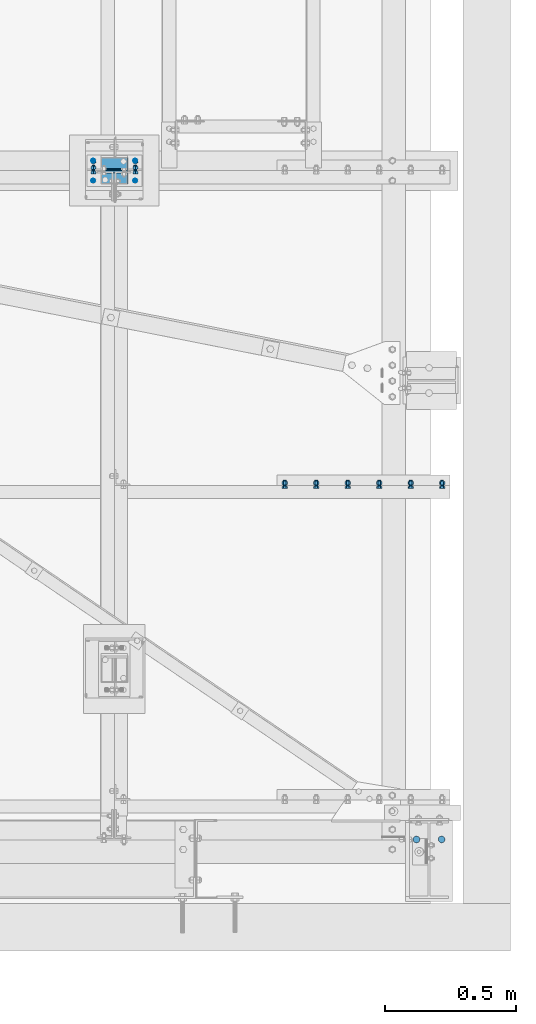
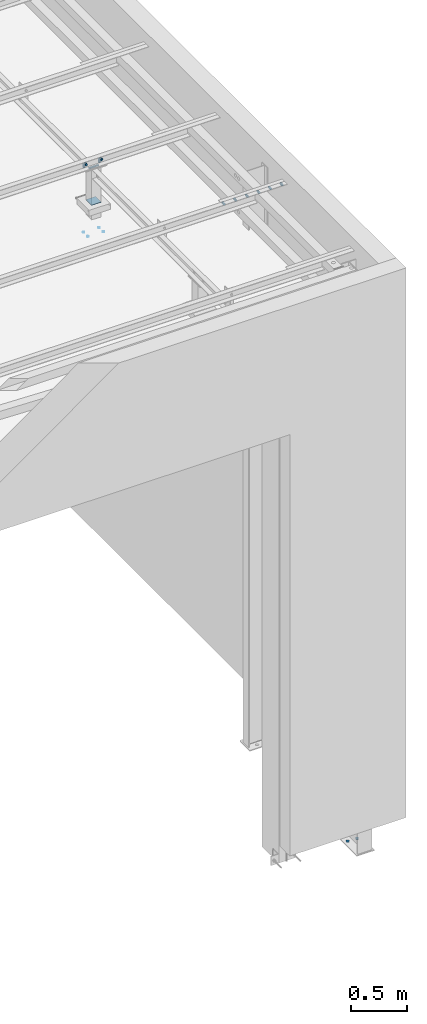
# One storey, part 341 of 3134: 7 mechanical fasteners, 5 elements without a shape of their own.
"""IFC2X3 building model written with IfcOpenShell, lengths in millimetres."""

from ifc_helpers import new_model, si_unit, frame, origin_with_axes, place, context, subcontext, project, spatial, faceted_brep, source, transform, mapped, material, type_object, element, aggregate, save


model = new_model("IFC2X3")

# Units and contexts
model_context = context("Model", 3, precision=1e-05, world=origin_with_axes())
body_context = subcontext(model_context, "Body", "Model", "MODEL_VIEW")
ifc_project = project(units=[si_unit("LENGTHUNIT", "METRE", prefix="MILLI"), si_unit("AREAUNIT", "SQUARE_METRE"), si_unit("VOLUMEUNIT", "CUBIC_METRE"), si_unit("MASSUNIT", "GRAM", prefix="KILO"), si_unit("TIMEUNIT", "SECOND"), si_unit("PLANEANGLEUNIT", "RADIAN"), si_unit("SOLIDANGLEUNIT", "STERADIAN"), si_unit("THERMODYNAMICTEMPERATUREUNIT", "DEGREE_CELSIUS"), si_unit("LUMINOUSINTENSITYUNIT", "LUMEN")], contexts=[model_context])

# Site, building, storey
site_placement = place(None, origin_with_axes())
site = spatial("IfcSite", under=ifc_project, at=site_placement, CompositionType="ELEMENT")
building_placement = place(site_placement, origin_with_axes())
building = spatial("IfcBuilding", under=site, at=building_placement, Name="Undefined", CompositionType="ELEMENT")
storey_placement = place(building_placement, origin_with_axes())
storey = spatial("IfcBuildingStorey", under=building, at=storey_placement, Name="Undefined", CompositionType="ELEMENT", Elevation=0.0)

# Assembly, mechanical fastener
assembly_1_placement = place(storey_placement, origin_with_axes())
assembly_1 = element("IfcElementAssembly", 1, at=assembly_1_placement, inside=storey, AssemblyPlace="NOTDEFINED", PredefinedType="RIGID_FRAME")
ifc_material_1 = material(Name="8.8")
mechanical_fastener_type = type_object("IfcMechanicalFastenerType", Name="Bolt assembly")
shared_shape_1 = source(origin_with_axes(), body_context, "Body", "Brep", [
    faceted_brep([(10.9696551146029, -14.0, 0.0), (5.48482755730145, -14.0, 9.5), (-5.48482755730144, -14.0, 9.5), (-10.9696551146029, -14.0, 1.34339530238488e-15), (-5.48482755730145, -14.0, -9.5), (5.48482755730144, -14.0, -9.50000000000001), (5.48482755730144, -6.0, -9.50000000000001), (-5.48482755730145, -6.0, -9.5), (-10.9696551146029, -6.0, 1.34339530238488e-15), (-5.48482755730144, -6.0, 9.5), (5.48482755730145, -6.0, 9.5), (10.9696551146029, -6.0, 0.0), (6.0, -6.0, 0.0), (5.19615242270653, -6.0, 3.00000000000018), (2.99999999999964, -6.0, 5.19615242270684), (-6.21801588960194e-13, -6.0, 6.0), (-3.00000000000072, -6.0, 5.19615242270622), (-5.19615242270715, -6.0, 2.9999999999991), (-6.0, -6.0, -1.24360317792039e-12), (-5.19615242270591, -6.0, -3.00000000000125), (-2.99999999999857, -6.0, -5.19615242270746), (1.85874342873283e-12, -6.0, -6.0), (3.00000000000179, -6.0, -5.1961524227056), (5.19615242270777, -6.0, -2.99999999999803), (5.19615242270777, 24.0, -2.99999999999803), (3.00000000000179, 24.0, -5.1961524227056), (1.85874342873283e-12, 24.0, -6.0), (-2.99999999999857, 24.0, -5.19615242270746), (-5.19615242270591, 24.0, -3.00000000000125), (-6.0, 24.0, -1.24360317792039e-12), (-5.19615242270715, 24.0, 2.9999999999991), (-3.00000000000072, 24.0, 5.19615242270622), (-6.21801588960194e-13, 24.0, 6.0), (2.99999999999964, 24.0, 5.19615242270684), (5.19615242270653, 24.0, 3.00000000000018), (6.0, 24.0, 0.0), (10.9696551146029, 6.00000000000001, 0.0), (5.48482755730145, 6.00000000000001, 9.5), (-5.48482755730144, 6.00000000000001, 9.5), (-10.9696551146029, 6.00000000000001, 1.34339530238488e-15), (-5.48482755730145, 6.00000000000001, -9.5), (5.48482755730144, 6.00000000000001, -9.50000000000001), (5.48482755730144, 16.0, -9.50000000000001), (-5.48482755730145, 16.0, -9.5), (-10.9696551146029, 16.0, 1.34339530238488e-15), (-5.48482755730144, 16.0, 9.5), (5.48482755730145, 16.0, 9.5), (10.9696551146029, 16.0, 0.0)], [[[0, 1, 2, 3, 4, 5]], [[6, 7, 8, 9, 10, 11]], [[0, 11, 10, 1]], [[1, 10, 9, 2]], [[2, 9, 8, 3]], [[3, 8, 7, 4]], [[4, 7, 6, 5]], [[5, 6, 11, 0]], [[12, 13, 14, 15, 16, 17, 18, 19, 20, 21, 22, 23]], [[24, 25, 26, 27, 28, 29, 30, 31, 32, 33, 34, 35]], [[12, 35, 34, 13]], [[13, 34, 33, 14]], [[14, 33, 32, 15]], [[15, 32, 31, 16]], [[16, 31, 30, 17]], [[17, 30, 29, 18]], [[18, 29, 28, 19]], [[19, 28, 27, 20]], [[20, 27, 26, 21]], [[21, 26, 25, 22]], [[22, 25, 24, 23]], [[23, 24, 35, 12]], [[36, 37, 38, 39, 40, 41]], [[42, 43, 44, 45, 46, 47]], [[36, 47, 46, 37]], [[37, 46, 45, 38]], [[38, 45, 44, 39]], [[39, 44, 43, 40]], [[40, 43, 42, 41]], [[41, 42, 47, 36]]]),
    faceted_brep([(7.0, -0.1, 0.0), (6.06217782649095, -0.1, 3.50000000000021), (3.49999999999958, -0.1, 6.06217782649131), (-7.25435187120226e-13, -0.1, 7.0), (-3.50000000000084, -0.1, 6.06217782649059), (-6.06217782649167, -0.1, 3.49999999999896), (-7.0, -0.1, -1.45087037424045e-12), (-6.06217782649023, -0.1, -3.50000000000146), (-3.49999999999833, -0.1, -6.06217782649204), (2.1685340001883e-12, -0.1, -7.0), (3.50000000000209, -0.1, -6.06217782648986), (6.0621778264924, -0.1, -3.4999999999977), (6.0621778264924, 6.00000000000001, -3.4999999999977), (3.50000000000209, 6.00000000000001, -6.06217782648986), (2.1685340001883e-12, 6.00000000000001, -7.0), (-3.49999999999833, 6.00000000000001, -6.06217782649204), (-6.06217782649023, 6.00000000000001, -3.50000000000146), (-7.0, 6.00000000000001, -1.45087037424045e-12), (-6.06217782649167, 6.00000000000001, 3.49999999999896), (-3.50000000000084, 6.00000000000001, 6.06217782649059), (-7.25435187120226e-13, 6.00000000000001, 7.0), (3.49999999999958, 6.00000000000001, 6.06217782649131), (6.06217782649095, 6.00000000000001, 3.50000000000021), (7.0, 6.00000000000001, 0.0), (7.0, -5.9, 0.0), (6.06217782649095, -5.9, 3.50000000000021), (3.49999999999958, -5.9, 6.06217782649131), (-7.25435187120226e-13, -5.9, 7.0), (-3.50000000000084, -5.9, 6.06217782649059), (-6.06217782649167, -5.9, 3.49999999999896), (-7.0, -5.9, -1.45087037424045e-12), (-6.06217782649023, -5.9, -3.50000000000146), (-3.49999999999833, -5.9, -6.06217782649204), (2.1685340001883e-12, -5.9, -7.0), (3.50000000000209, -5.9, -6.06217782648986), (6.0621778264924, -5.9, -3.4999999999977), (6.0621778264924, 0.0999999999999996, -3.4999999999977), (3.50000000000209, 0.0999999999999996, -6.06217782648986), (2.1685340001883e-12, 0.0999999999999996, -7.0), (-3.49999999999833, 0.0999999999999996, -6.06217782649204), (-6.06217782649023, 0.0999999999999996, -3.50000000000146), (-7.0, 0.0999999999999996, -1.45087037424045e-12), (-6.06217782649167, 0.0999999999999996, 3.49999999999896), (-3.50000000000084, 0.0999999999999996, 6.06217782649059), (-7.25435187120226e-13, 0.0999999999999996, 7.0), (3.49999999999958, 0.0999999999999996, 6.06217782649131), (6.06217782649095, 0.0999999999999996, 3.50000000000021), (7.0, 0.0999999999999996, 0.0)], [[[0, 1, 2, 3, 4, 5, 6, 7, 8, 9, 10, 11]], [[12, 13, 14, 15, 16, 17, 18, 19, 20, 21, 22, 23]], [[0, 23, 22, 1]], [[1, 22, 21, 2]], [[2, 21, 20, 3]], [[3, 20, 19, 4]], [[4, 19, 18, 5]], [[5, 18, 17, 6]], [[6, 17, 16, 7]], [[7, 16, 15, 8]], [[8, 15, 14, 9]], [[9, 14, 13, 10]], [[10, 13, 12, 11]], [[11, 12, 23, 0]], [[24, 25, 26, 27, 28, 29, 30, 31, 32, 33, 34, 35]], [[36, 37, 38, 39, 40, 41, 42, 43, 44, 45, 46, 47]], [[24, 47, 46, 25]], [[25, 46, 45, 26]], [[26, 45, 44, 27]], [[27, 44, 43, 28]], [[28, 43, 42, 29]], [[29, 42, 41, 30]], [[30, 41, 40, 31]], [[31, 40, 39, 32]], [[32, 39, 38, 33]], [[33, 38, 37, 34]], [[34, 37, 36, 35]], [[35, 36, 47, 24]]]),
])
mechanical_fastener_1_placement = place(assembly_1_placement, frame((78025.0, 2585.0, 5850.0), z_axis=(1.0, 0.0, 0.0), x_axis=(0.0, -1.0, 0.0)))
mechanical_fastener_1 = element("IfcMechanicalFastener", 2, at=mechanical_fastener_1_placement, type_object=mechanical_fastener_type, material=ifc_material_1, Name="Bolt assembly", NominalDiameter=12.0, NominalLength=30.0, context=body_context, shape_type="MappedRepresentation", body=[
    mapped(shared_shape_1, transform((0.0, -5.32963895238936e-10, -79.9999999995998))),
    mapped(shared_shape_1, transform((0.0, 5.3114490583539e-10, 79.9999999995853))),
])

assembly_2_placement = place(storey_placement, origin_with_axes())
assembly_2 = element("IfcElementAssembly", 3, at=assembly_2_placement, inside=storey, AssemblyPlace="NOTDEFINED", PredefinedType="RIGID_FRAME")
shared_shape_2 = source(origin_with_axes(), body_context, "Body", "Brep", [
    faceted_brep([(7.0, 13.0000253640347, 0.0), (6.06217782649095, 13.0000253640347, 3.50000000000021), (3.49999999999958, 13.0000253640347, 6.06217782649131), (-7.25435187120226e-13, 13.0000253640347, 7.0), (-3.50000000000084, 13.0000253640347, 6.06217782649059), (-6.06217782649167, 13.0000253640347, 3.49999999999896), (-7.0, 13.0000253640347, -1.45087037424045e-12), (-6.06217782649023, 13.0000253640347, -3.50000000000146), (-3.49999999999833, 13.0000253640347, -6.06217782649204), (2.1685340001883e-12, 13.0000253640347, -7.0), (3.50000000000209, 13.0000253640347, -6.06217782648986), (6.0621778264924, 13.0000253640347, -3.4999999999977), (6.0621778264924, 15.0999999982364, -3.4999999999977), (3.50000000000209, 15.0999999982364, -6.06217782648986), (2.1685340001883e-12, 15.0999999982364, -7.0), (-3.49999999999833, 15.0999999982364, -6.06217782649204), (-6.06217782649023, 15.0999999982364, -3.50000000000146), (-7.0, 15.0999999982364, -1.45087037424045e-12), (-6.06217782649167, 15.0999999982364, 3.49999999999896), (-3.50000000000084, 15.0999999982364, 6.06217782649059), (-7.25435187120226e-13, 15.0999999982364, 7.0), (3.49999999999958, 15.0999999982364, 6.06217782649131), (6.06217782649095, 15.0999999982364, 3.50000000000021), (7.0, 15.0999999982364, 0.0)], [[[0, 1, 2, 3, 4, 5, 6, 7, 8, 9, 10, 11]], [[12, 13, 14, 15, 16, 17, 18, 19, 20, 21, 22, 23]], [[0, 23, 22, 1]], [[1, 22, 21, 2]], [[2, 21, 20, 3]], [[3, 20, 19, 4]], [[4, 19, 18, 5]], [[5, 18, 17, 6]], [[6, 17, 16, 7]], [[7, 16, 15, 8]], [[8, 15, 14, 9]], [[9, 14, 13, 10]], [[10, 13, 12, 11]], [[11, 12, 23, 0]]]),
])
mechanical_fastener_2_placement = place(assembly_2_placement, frame((78024.3451187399, 2588.0, 5102.2772055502), z_axis=(-0.99951962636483, 0.0, 0.0309922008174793), x_axis=(0.0, -1.0, 0.0)))
mechanical_fastener_2 = element("IfcMechanicalFastener", 4, at=mechanical_fastener_2_placement, type_object=mechanical_fastener_type, material=ifc_material_1, Name="Bolt assembly", NominalDiameter=12.0, NominalLength=2.0, context=body_context, shape_type="MappedRepresentation", body=[
    mapped(shared_shape_2, transform((0.0, -5.32963895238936e-10, -79.9999999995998))),
    mapped(shared_shape_2, transform((76.0, -5.32963895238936e-10, -79.9999999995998))),
    mapped(shared_shape_2, transform((0.0, 5.3114490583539e-10, 79.9999999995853))),
    mapped(shared_shape_2, transform((76.0, 5.3114490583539e-10, 79.9999999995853))),
])
aggregate(assembly_2, [mechanical_fastener_2])

# Assembly, mechanical fasteners
assembly_3_placement = place(storey_placement, origin_with_axes())
assembly_3 = element("IfcElementAssembly", 5, at=assembly_3_placement, inside=storey, AssemblyPlace="NOTDEFINED", PredefinedType="RIGID_FRAME")
shared_shape_3 = source(origin_with_axes(), body_context, "Body", "Brep", [
    faceted_brep([(9.0, -50.0, 0.0), (7.79422863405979, -50.0, 4.50000000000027), (4.49999999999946, -50.0, 7.79422863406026), (-9.3270238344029e-13, -50.0, 9.0), (-4.50000000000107, -50.0, 7.79422863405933), (-7.79422863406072, -50.0, 4.49999999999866), (-9.0, -50.0, -1.86540476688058e-12), (-7.79422863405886, -50.0, -4.50000000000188), (-4.49999999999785, -50.0, -7.79422863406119), (2.78811514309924e-12, -50.0, -9.0), (4.50000000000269, -50.0, -7.7942286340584), (7.79422863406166, -50.0, -4.49999999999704), (7.79422863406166, 50.1, -4.49999999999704), (4.50000000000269, 50.1, -7.7942286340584), (2.78811514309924e-12, 50.1, -9.0), (-4.49999999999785, 50.1, -7.79422863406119), (-7.79422863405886, 50.1, -4.50000000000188), (-9.0, 50.1, -1.86540476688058e-12), (-7.79422863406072, 50.1, 4.49999999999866), (-4.50000000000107, 50.1, 7.79422863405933), (-9.3270238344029e-13, 50.1, 9.0), (4.49999999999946, 50.1, 7.79422863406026), (7.79422863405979, 50.1, 4.50000000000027), (9.0, 50.1, 0.0)], [[[0, 1, 2, 3, 4, 5, 6, 7, 8, 9, 10, 11]], [[12, 13, 14, 15, 16, 17, 18, 19, 20, 21, 22, 23]], [[0, 23, 22, 1]], [[1, 22, 21, 2]], [[2, 21, 20, 3]], [[3, 20, 19, 4]], [[4, 19, 18, 5]], [[5, 18, 17, 6]], [[6, 17, 16, 7]], [[7, 16, 15, 8]], [[8, 15, 14, 9]], [[9, 14, 13, 10]], [[10, 13, 12, 11]], [[11, 12, 23, 0]]]),
])
mechanical_fastener_3_placement = place(assembly_3_placement, frame((78025.0, 2550.0, 5830.0), z_axis=(0.0, 1.0, 0.0), x_axis=(0.0, 0.0, 1.0)))
mechanical_fastener_3 = element("IfcMechanicalFastener", 6, at=mechanical_fastener_3_placement, type_object=mechanical_fastener_type, material=ifc_material_1, Name="Bolt assembly", NominalDiameter=16.0, NominalLength=100.0, context=body_context, shape_type="MappedRepresentation", body=[
    mapped(shared_shape_3, transform((0.0, 0.0, 0.0))),
])
ifc_material_2 = material(Name="6.8")
shared_shape_4 = source(origin_with_axes(), body_context, "Body", "Brep", [
    faceted_brep([(51.5, 1.36424205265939e-12, 50.0), (51.3858192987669, 1.36424205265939e-12, 50.5740251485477), (51.0606601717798, 1.36424205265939e-12, 51.0606601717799), (50.5740251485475, 1.36424205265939e-12, 51.385819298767), (-50.0000000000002, 1.36424205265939e-12, 51.5), (-50.7500000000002, 1.36424205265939e-12, 51.2990381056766), (-51.2990381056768, 1.36424205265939e-12, 50.7499999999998), (-51.5, 1.36424205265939e-12, 49.9999999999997), (-51.5, 1.36424205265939e-12, -50.0000000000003), (-51.2990381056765, 1.36424205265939e-12, -50.7500000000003), (-50.7499999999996, 1.36424205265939e-12, -51.2990381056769), (-49.9999999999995, 1.36424205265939e-12, -51.5), (50.0000000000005, 1.36424205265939e-12, -51.5), (50.7500000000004, 1.36424205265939e-12, -51.2990381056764), (51.2990381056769, 1.36424205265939e-12, -50.7499999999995), (51.5, 1.36424205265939e-12, -49.9999999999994), (51.5, 5.10000000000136, -49.9999999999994), (51.2990381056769, 5.10000000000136, -50.7499999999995), (50.7500000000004, 5.10000000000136, -51.2990381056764), (50.0000000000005, 5.10000000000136, -51.5), (-49.9999999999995, 5.10000000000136, -51.5), (-50.7499999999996, 5.10000000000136, -51.2990381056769), (-51.2990381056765, 5.10000000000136, -50.7500000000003), (-51.5, 5.10000000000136, -50.0000000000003), (-51.5, 5.10000000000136, 49.9999999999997), (-51.2990381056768, 5.10000000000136, 50.7499999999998), (-50.7500000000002, 5.10000000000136, 51.2990381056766), (-50.0000000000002, 5.10000000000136, 51.5), (50.5740251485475, 5.10000000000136, 51.385819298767), (51.0606601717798, 5.10000000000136, 51.0606601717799), (51.3858192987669, 5.10000000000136, 50.5740251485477), (51.5, 5.10000000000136, 50.0)], [[[0, 1, 2, 3, 4, 5, 6, 7, 8, 9, 10, 11, 12, 13, 14, 15]], [[16, 17, 18, 19, 20, 21, 22, 23, 24, 25, 26, 27, 28, 29, 30, 31]], [[0, 31, 30, 1]], [[1, 30, 29, 2]], [[2, 29, 28, 3]], [[3, 28, 27, 4]], [[4, 27, 26, 5]], [[5, 26, 25, 6]], [[6, 25, 24, 7]], [[7, 24, 23, 8]], [[8, 23, 22, 9]], [[9, 22, 21, 10]], [[10, 21, 20, 11]], [[11, 20, 19, 12]], [[12, 19, 18, 13]], [[13, 18, 17, 14]], [[14, 17, 16, 15]], [[15, 16, 31, 0]]]),
])
mechanical_fastener_4_placement = place(assembly_3_placement, frame((78025.0, 2550.0, 5456.99), z_axis=(0.0, -1.0, 0.0), x_axis=(-1.0, 0.0, 0.0)))
mechanical_fastener_4 = element("IfcMechanicalFastener", 7, at=mechanical_fastener_4_placement, type_object=mechanical_fastener_type, material=ifc_material_2, Name="Bolt assembly", NominalDiameter=10.0, NominalLength=5.0, context=body_context, shape_type="MappedRepresentation", body=[
    mapped(shared_shape_4, transform((0.0, 0.0, 0.0))),
])
aggregate(assembly_3, [mechanical_fastener_3, mechanical_fastener_4])

# Mechanical fastener
shared_shape_5 = source(origin_with_axes(), body_context, "Body", "Brep", [
    faceted_brep([(10.9696551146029, -12.0, 0.0), (5.48482755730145, -12.0, 9.5), (-5.48482755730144, -12.0, 9.5), (-10.9696551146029, -12.0, 1.34339530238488e-15), (-5.48482755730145, -12.0, -9.5), (5.48482755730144, -12.0, -9.50000000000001), (5.48482755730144, -4.0, -9.50000000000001), (-5.48482755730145, -4.0, -9.5), (-10.9696551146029, -4.0, 1.34339530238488e-15), (-5.48482755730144, -4.0, 9.5), (5.48482755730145, -4.0, 9.5), (10.9696551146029, -4.0, 0.0), (6.0, -4.0, 0.0), (5.19615242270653, -4.0, 3.00000000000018), (2.99999999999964, -4.0, 5.19615242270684), (-6.21801588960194e-13, -4.0, 6.0), (-3.00000000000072, -4.0, 5.19615242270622), (-5.19615242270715, -4.0, 2.9999999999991), (-6.0, -4.0, -1.24360317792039e-12), (-5.19615242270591, -4.0, -3.00000000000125), (-2.99999999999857, -4.0, -5.19615242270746), (1.85874342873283e-12, -4.0, -6.0), (3.00000000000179, -4.0, -5.1961524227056), (5.19615242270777, -4.0, -2.99999999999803), (5.19615242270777, 21.0, -2.99999999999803), (3.00000000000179, 21.0, -5.1961524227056), (1.85874342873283e-12, 21.0, -6.0), (-2.99999999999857, 21.0, -5.19615242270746), (-5.19615242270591, 21.0, -3.00000000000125), (-6.0, 21.0, -1.24360317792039e-12), (-5.19615242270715, 21.0, 2.9999999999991), (-3.00000000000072, 21.0, 5.19615242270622), (-6.21801588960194e-13, 21.0, 6.0), (2.99999999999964, 21.0, 5.19615242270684), (5.19615242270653, 21.0, 3.00000000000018), (6.0, 21.0, 0.0), (10.9696551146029, 6.00000000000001, 0.0), (5.48482755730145, 6.00000000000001, 9.5), (-5.48482755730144, 6.00000000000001, 9.5), (-10.9696551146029, 6.00000000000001, 1.34339530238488e-15), (-5.48482755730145, 6.00000000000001, -9.5), (5.48482755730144, 6.00000000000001, -9.50000000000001), (5.48482755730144, 16.0, -9.50000000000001), (-5.48482755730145, 16.0, -9.5), (-10.9696551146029, 16.0, 1.34339530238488e-15), (-5.48482755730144, 16.0, 9.5), (5.48482755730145, 16.0, 9.5), (10.9696551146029, 16.0, 0.0)], [[[0, 1, 2, 3, 4, 5]], [[6, 7, 8, 9, 10, 11]], [[0, 11, 10, 1]], [[1, 10, 9, 2]], [[2, 9, 8, 3]], [[3, 8, 7, 4]], [[4, 7, 6, 5]], [[5, 6, 11, 0]], [[12, 13, 14, 15, 16, 17, 18, 19, 20, 21, 22, 23]], [[24, 25, 26, 27, 28, 29, 30, 31, 32, 33, 34, 35]], [[12, 35, 34, 13]], [[13, 34, 33, 14]], [[14, 33, 32, 15]], [[15, 32, 31, 16]], [[16, 31, 30, 17]], [[17, 30, 29, 18]], [[18, 29, 28, 19]], [[19, 28, 27, 20]], [[20, 27, 26, 21]], [[21, 26, 25, 22]], [[22, 25, 24, 23]], [[23, 24, 35, 12]], [[36, 37, 38, 39, 40, 41]], [[42, 43, 44, 45, 46, 47]], [[36, 47, 46, 37]], [[37, 46, 45, 38]], [[38, 45, 44, 39]], [[39, 44, 43, 40]], [[40, 43, 42, 41]], [[41, 42, 47, 36]]]),
    faceted_brep([(7.0, -3.9, 0.0), (6.06217782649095, -3.9, 3.50000000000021), (3.49999999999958, -3.9, 6.06217782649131), (-7.25435187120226e-13, -3.9, 7.0), (-3.50000000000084, -3.9, 6.06217782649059), (-6.06217782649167, -3.9, 3.49999999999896), (-7.0, -3.9, -1.45087037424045e-12), (-6.06217782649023, -3.9, -3.50000000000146), (-3.49999999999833, -3.9, -6.06217782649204), (2.1685340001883e-12, -3.9, -7.0), (3.50000000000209, -3.9, -6.06217782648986), (6.0621778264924, -3.9, -3.4999999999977), (6.0621778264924, 0.0999999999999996, -3.4999999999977), (3.50000000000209, 0.0999999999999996, -6.06217782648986), (2.1685340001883e-12, 0.0999999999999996, -7.0), (-3.49999999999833, 0.0999999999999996, -6.06217782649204), (-6.06217782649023, 0.0999999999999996, -3.50000000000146), (-7.0, 0.0999999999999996, -1.45087037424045e-12), (-6.06217782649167, 0.0999999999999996, 3.49999999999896), (-3.50000000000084, 0.0999999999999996, 6.06217782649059), (-7.25435187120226e-13, 0.0999999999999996, 7.0), (3.49999999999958, 0.0999999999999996, 6.06217782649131), (6.06217782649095, 0.0999999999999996, 3.50000000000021), (7.0, 0.0999999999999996, 0.0), (7.0, -0.1, 0.0), (6.06217782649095, -0.1, 3.50000000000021), (3.49999999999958, -0.1, 6.06217782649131), (-7.25435187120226e-13, -0.1, 7.0), (-3.50000000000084, -0.1, 6.06217782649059), (-6.06217782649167, -0.1, 3.49999999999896), (-7.0, -0.1, -1.45087037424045e-12), (-6.06217782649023, -0.1, -3.50000000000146), (-3.49999999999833, -0.1, -6.06217782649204), (2.1685340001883e-12, -0.1, -7.0), (3.50000000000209, -0.1, -6.06217782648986), (6.0621778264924, -0.1, -3.4999999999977), (6.0621778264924, 6.00000000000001, -3.4999999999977), (3.50000000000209, 6.00000000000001, -6.06217782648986), (2.1685340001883e-12, 6.00000000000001, -7.0), (-3.49999999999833, 6.00000000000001, -6.06217782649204), (-6.06217782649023, 6.00000000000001, -3.50000000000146), (-7.0, 6.00000000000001, -1.45087037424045e-12), (-6.06217782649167, 6.00000000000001, 3.49999999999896), (-3.50000000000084, 6.00000000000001, 6.06217782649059), (-7.25435187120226e-13, 6.00000000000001, 7.0), (3.49999999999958, 6.00000000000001, 6.06217782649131), (6.06217782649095, 6.00000000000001, 3.50000000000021), (7.0, 6.00000000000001, 0.0)], [[[0, 1, 2, 3, 4, 5, 6, 7, 8, 9, 10, 11]], [[12, 13, 14, 15, 16, 17, 18, 19, 20, 21, 22, 23]], [[0, 23, 22, 1]], [[1, 22, 21, 2]], [[2, 21, 20, 3]], [[3, 20, 19, 4]], [[4, 19, 18, 5]], [[5, 18, 17, 6]], [[6, 17, 16, 7]], [[7, 16, 15, 8]], [[8, 15, 14, 9]], [[9, 14, 13, 10]], [[10, 13, 12, 11]], [[11, 12, 23, 0]], [[24, 25, 26, 27, 28, 29, 30, 31, 32, 33, 34, 35]], [[36, 37, 38, 39, 40, 41, 42, 43, 44, 45, 46, 47]], [[24, 47, 46, 25]], [[25, 46, 45, 26]], [[26, 45, 44, 27]], [[27, 44, 43, 28]], [[28, 43, 42, 29]], [[29, 42, 41, 30]], [[30, 41, 40, 31]], [[31, 40, 39, 32]], [[32, 39, 38, 33]], [[33, 38, 37, 34]], [[34, 37, 36, 35]], [[35, 36, 47, 24]]]),
])
mechanical_fastener_5_placement = place(assembly_1_placement, frame((78025.0, 2550.0, 5885.0), z_axis=(1.0, 0.0, 0.0), x_axis=(0.0, 0.0, -1.0)))
mechanical_fastener_5 = element("IfcMechanicalFastener", 8, at=mechanical_fastener_5_placement, type_object=mechanical_fastener_type, material=ifc_material_1, Name="Bolt assembly", NominalDiameter=12.0, NominalLength=25.0, context=body_context, shape_type="MappedRepresentation", body=[
    mapped(shared_shape_5, transform((0.0, -5.32963895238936e-10, -79.9999999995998))),
    mapped(shared_shape_5, transform((0.0, 5.3114490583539e-10, 79.9999999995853))),
])

aggregate(assembly_1, [mechanical_fastener_5, mechanical_fastener_1])

# Assembly, mechanical fastener
assembly_4_placement = place(storey_placement, origin_with_axes())
assembly_4 = element("IfcElementAssembly", 9, at=assembly_4_placement, inside=storey, AssemblyPlace="NOTDEFINED", PredefinedType="RIGID_FRAME")
shared_shape_6 = source(origin_with_axes(), body_context, "Body", "Brep", [
    faceted_brep([(10.9696551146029, -12.0, 0.0), (5.48482755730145, -12.0, 9.5), (-5.48482755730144, -12.0, 9.5), (-10.9696551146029, -12.0, 1.34339530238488e-15), (-5.48482755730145, -12.0, -9.5), (5.48482755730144, -12.0, -9.50000000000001), (5.48482755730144, -4.0, -9.50000000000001), (-5.48482755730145, -4.0, -9.5), (-10.9696551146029, -4.0, 1.34339530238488e-15), (-5.48482755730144, -4.0, 9.5), (5.48482755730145, -4.0, 9.5), (10.9696551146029, -4.0, 0.0), (6.0, -4.0, 0.0), (5.19615242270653, -4.0, 3.00000000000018), (2.99999999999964, -4.0, 5.19615242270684), (-6.21801588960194e-13, -4.0, 6.0), (-3.00000000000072, -4.0, 5.19615242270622), (-5.19615242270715, -4.0, 2.9999999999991), (-6.0, -4.0, -1.24360317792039e-12), (-5.19615242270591, -4.0, -3.00000000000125), (-2.99999999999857, -4.0, -5.19615242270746), (1.85874342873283e-12, -4.0, -6.0), (3.00000000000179, -4.0, -5.1961524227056), (5.19615242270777, -4.0, -2.99999999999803), (5.19615242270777, 21.0, -2.99999999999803), (3.00000000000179, 21.0, -5.1961524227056), (1.85874342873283e-12, 21.0, -6.0), (-2.99999999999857, 21.0, -5.19615242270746), (-5.19615242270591, 21.0, -3.00000000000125), (-6.0, 21.0, -1.24360317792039e-12), (-5.19615242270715, 21.0, 2.9999999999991), (-3.00000000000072, 21.0, 5.19615242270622), (-6.21801588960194e-13, 21.0, 6.0), (2.99999999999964, 21.0, 5.19615242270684), (5.19615242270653, 21.0, 3.00000000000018), (6.0, 21.0, 0.0), (10.9696551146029, 4.00000000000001, 0.0), (5.48482755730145, 4.00000000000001, 9.5), (-5.48482755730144, 4.00000000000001, 9.5), (-10.9696551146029, 4.00000000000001, 1.34339530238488e-15), (-5.48482755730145, 4.00000000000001, -9.5), (5.48482755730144, 4.00000000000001, -9.50000000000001), (5.48482755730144, 14.0, -9.50000000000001), (-5.48482755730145, 14.0, -9.5), (-10.9696551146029, 14.0, 1.34339530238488e-15), (-5.48482755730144, 14.0, 9.5), (5.48482755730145, 14.0, 9.5), (10.9696551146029, 14.0, 0.0)], [[[0, 1, 2, 3, 4, 5]], [[6, 7, 8, 9, 10, 11]], [[0, 11, 10, 1]], [[1, 10, 9, 2]], [[2, 9, 8, 3]], [[3, 8, 7, 4]], [[4, 7, 6, 5]], [[5, 6, 11, 0]], [[12, 13, 14, 15, 16, 17, 18, 19, 20, 21, 22, 23]], [[24, 25, 26, 27, 28, 29, 30, 31, 32, 33, 34, 35]], [[12, 35, 34, 13]], [[13, 34, 33, 14]], [[14, 33, 32, 15]], [[15, 32, 31, 16]], [[16, 31, 30, 17]], [[17, 30, 29, 18]], [[18, 29, 28, 19]], [[19, 28, 27, 20]], [[20, 27, 26, 21]], [[21, 26, 25, 22]], [[22, 25, 24, 23]], [[23, 24, 35, 12]], [[36, 37, 38, 39, 40, 41]], [[42, 43, 44, 45, 46, 47]], [[36, 47, 46, 37]], [[37, 46, 45, 38]], [[38, 45, 44, 39]], [[39, 44, 43, 40]], [[40, 43, 42, 41]], [[41, 42, 47, 36]]]),
    faceted_brep([(7.0, -0.1, 0.0), (6.06217782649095, -0.1, 3.50000000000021), (3.49999999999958, -0.1, 6.06217782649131), (-7.25435187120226e-13, -0.1, 7.0), (-3.50000000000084, -0.1, 6.06217782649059), (-6.06217782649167, -0.1, 3.49999999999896), (-7.0, -0.1, -1.45087037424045e-12), (-6.06217782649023, -0.1, -3.50000000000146), (-3.49999999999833, -0.1, -6.06217782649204), (2.1685340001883e-12, -0.1, -7.0), (3.50000000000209, -0.1, -6.06217782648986), (6.0621778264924, -0.1, -3.4999999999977), (6.0621778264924, 4.00000000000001, -3.4999999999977), (3.50000000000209, 4.00000000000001, -6.06217782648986), (2.1685340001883e-12, 4.00000000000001, -7.0), (-3.49999999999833, 4.00000000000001, -6.06217782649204), (-6.06217782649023, 4.00000000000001, -3.50000000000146), (-7.0, 4.00000000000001, -1.45087037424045e-12), (-6.06217782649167, 4.00000000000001, 3.49999999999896), (-3.50000000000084, 4.00000000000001, 6.06217782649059), (-7.25435187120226e-13, 4.00000000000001, 7.0), (3.49999999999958, 4.00000000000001, 6.06217782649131), (6.06217782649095, 4.00000000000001, 3.50000000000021), (7.0, 4.00000000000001, 0.0), (7.0, -3.9, 0.0), (6.06217782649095, -3.9, 3.50000000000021), (3.49999999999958, -3.9, 6.06217782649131), (-7.25435187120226e-13, -3.9, 7.0), (-3.50000000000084, -3.9, 6.06217782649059), (-6.06217782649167, -3.9, 3.49999999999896), (-7.0, -3.9, -1.45087037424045e-12), (-6.06217782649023, -3.9, -3.50000000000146), (-3.49999999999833, -3.9, -6.06217782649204), (2.1685340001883e-12, -3.9, -7.0), (3.50000000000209, -3.9, -6.06217782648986), (6.0621778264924, -3.9, -3.4999999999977), (6.0621778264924, 0.0999999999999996, -3.4999999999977), (3.50000000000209, 0.0999999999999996, -6.06217782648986), (2.1685340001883e-12, 0.0999999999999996, -7.0), (-3.49999999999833, 0.0999999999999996, -6.06217782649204), (-6.06217782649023, 0.0999999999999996, -3.50000000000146), (-7.0, 0.0999999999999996, -1.45087037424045e-12), (-6.06217782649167, 0.0999999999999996, 3.49999999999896), (-3.50000000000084, 0.0999999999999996, 6.06217782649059), (-7.25435187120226e-13, 0.0999999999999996, 7.0), (3.49999999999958, 0.0999999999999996, 6.06217782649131), (6.06217782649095, 0.0999999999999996, 3.50000000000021), (7.0, 0.0999999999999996, 0.0)], [[[0, 1, 2, 3, 4, 5, 6, 7, 8, 9, 10, 11]], [[12, 13, 14, 15, 16, 17, 18, 19, 20, 21, 22, 23]], [[0, 23, 22, 1]], [[1, 22, 21, 2]], [[2, 21, 20, 3]], [[3, 20, 19, 4]], [[4, 19, 18, 5]], [[5, 18, 17, 6]], [[6, 17, 16, 7]], [[7, 16, 15, 8]], [[8, 15, 14, 9]], [[9, 14, 13, 10]], [[10, 13, 12, 11]], [[11, 12, 23, 0]], [[24, 25, 26, 27, 28, 29, 30, 31, 32, 33, 34, 35]], [[36, 37, 38, 39, 40, 41, 42, 43, 44, 45, 46, 47]], [[24, 47, 46, 25]], [[25, 46, 45, 26]], [[26, 45, 44, 27]], [[27, 44, 43, 28]], [[28, 43, 42, 29]], [[29, 42, 41, 30]], [[30, 41, 40, 31]], [[31, 40, 39, 32]], [[32, 39, 38, 33]], [[33, 38, 37, 34]], [[34, 37, 36, 35]], [[35, 36, 47, 24]]]),
])
mechanical_fastener_6_placement = place(assembly_4_placement, frame((78675.0, 1350.0, 5928.0), z_axis=(0.0, 0.0, 1.0), x_axis=(1.0, 0.0, 0.0)))
mechanical_fastener_6 = element("IfcMechanicalFastener", 10, at=mechanical_fastener_6_placement, type_object=mechanical_fastener_type, material=ifc_material_1, Name="Bolt assembly", NominalDiameter=12.0, NominalLength=25.0, context=body_context, shape_type="MappedRepresentation", body=[
    mapped(shared_shape_6, transform((0.0, 0.0, 0.0))),
    mapped(shared_shape_6, transform((120.0, 0.0, 0.0))),
    mapped(shared_shape_6, transform((240.0, 0.0, 0.0))),
    mapped(shared_shape_6, transform((360.0, 0.0, 0.0))),
    mapped(shared_shape_6, transform((480.0, 0.0, 0.0))),
    mapped(shared_shape_6, transform((600.0, 0.0, 0.0))),
])
aggregate(assembly_4, [mechanical_fastener_6])

assembly_5_placement = place(storey_placement, origin_with_axes())
assembly_5 = element("IfcElementAssembly", 11, at=assembly_5_placement, inside=storey, Name="300", AssemblyPlace="NOTDEFINED", PredefinedType="RIGID_FRAME")
shared_shape_7 = source(origin_with_axes(), body_context, "Body", "Brep", [
    faceted_brep([(13.0, -25.000000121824, 0.0), (11.2583302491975, -25.000000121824, 6.50000000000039), (6.49999999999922, -25.000000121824, 11.2583302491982), (-1.34723677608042e-12, -25.000000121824, 13.0), (-6.50000000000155, -25.000000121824, 11.2583302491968), (-11.2583302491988, -25.000000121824, 6.49999999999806), (-13.0, -25.000000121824, -2.69447355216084e-12), (-11.2583302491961, -25.000000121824, -6.50000000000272), (-6.4999999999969, -25.000000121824, -11.2583302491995), (4.02727742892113e-12, -25.000000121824, -13.0), (6.50000000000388, -25.000000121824, -11.2583302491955), (11.2583302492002, -25.000000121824, -6.49999999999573), (11.2583302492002, -12.900000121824, -6.49999999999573), (6.50000000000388, -12.900000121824, -11.2583302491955), (4.02727742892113e-12, -12.900000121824, -13.0), (-6.4999999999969, -12.900000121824, -11.2583302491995), (-11.2583302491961, -12.900000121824, -6.50000000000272), (-13.0, -12.900000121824, -2.69447355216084e-12), (-11.2583302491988, -12.900000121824, 6.49999999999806), (-6.50000000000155, -12.900000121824, 11.2583302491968), (-1.34723677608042e-12, -12.900000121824, 13.0), (6.49999999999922, -12.900000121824, 11.2583302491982), (11.2583302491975, -12.900000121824, 6.50000000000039), (13.0, -12.900000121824, 0.0)], [[[0, 1, 2, 3, 4, 5, 6, 7, 8, 9, 10, 11]], [[12, 13, 14, 15, 16, 17, 18, 19, 20, 21, 22, 23]], [[0, 23, 22, 1]], [[1, 22, 21, 2]], [[2, 21, 20, 3]], [[3, 20, 19, 4]], [[4, 19, 18, 5]], [[5, 18, 17, 6]], [[6, 17, 16, 7]], [[7, 16, 15, 8]], [[8, 15, 14, 9]], [[9, 14, 13, 10]], [[10, 13, 12, 11]], [[11, 12, 23, 0]]]),
])
mechanical_fastener_7_placement = place(assembly_5_placement, frame((79225.0000000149, -301.499999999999, -374.999999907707), z_axis=(1.0, 0.0, 0.0), x_axis=(0.0, 1.0, 0.0)))
mechanical_fastener_7 = element("IfcMechanicalFastener", 12, at=mechanical_fastener_7_placement, type_object=mechanical_fastener_type, material=ifc_material_1, Name="Bolt assembly", NominalDiameter=24.0, NominalLength=12.0, context=body_context, shape_type="MappedRepresentation", body=[
    mapped(shared_shape_7, transform((301.5, 0.0, -48.0))),
    mapped(shared_shape_7, transform((301.5, 0.0, 48.0))),
])
aggregate(assembly_5, [mechanical_fastener_7])

save(model, "model.ifc")
